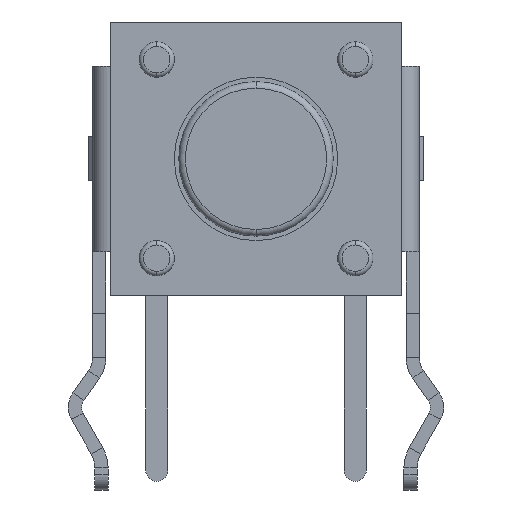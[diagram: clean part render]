
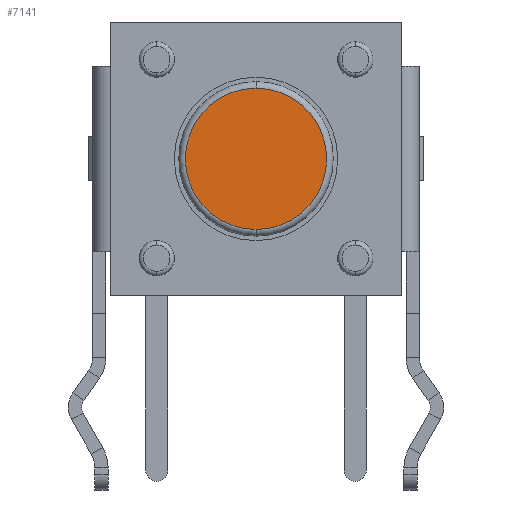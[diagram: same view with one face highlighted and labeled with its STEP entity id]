
A CAD part, front view. The second image highlights one B-rep face of the part: STEP entity #7141.
In plain terms, the highlighted planar face has unit normal (0, -1, 0).
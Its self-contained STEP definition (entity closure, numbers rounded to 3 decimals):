
#40 = EDGE_CURVE ( 'NONE', #3072, #11976, #4426, .T. ) ;
#1839 = CARTESIAN_POINT ( 'NONE',  ( 0., -3.15, 5.6 ) ) ;
#2458 = ORIENTED_EDGE ( 'NONE', *, *, #10839, .T. ) ;
#3072 = VERTEX_POINT ( 'NONE', #1839 ) ;
#4204 = DIRECTION ( 'NONE',  ( 0., 0., -1. ) ) ;
#4426 = CIRCLE ( 'NONE', #12032, 1.6 ) ;
#5379 = CARTESIAN_POINT ( 'NONE',  ( 0., -3.15, 0. ) ) ;
#6992 = ORIENTED_EDGE ( 'NONE', *, *, #40, .T. ) ;
#7141 = ADVANCED_FACE ( 'NONE', ( #18933 ), #10369, .T. ) ;
#9981 = DIRECTION ( 'NONE',  ( 0., -1., 0. ) ) ;
#10369 = PLANE ( 'NONE',  #21369 ) ;
#10610 = CARTESIAN_POINT ( 'NONE',  ( 0., -3.15, 2.4 ) ) ;
#10839 = EDGE_CURVE ( 'NONE', #11976, #3072, #14573, .T. ) ;
#11976 = VERTEX_POINT ( 'NONE', #10610 ) ;
#12032 = AXIS2_PLACEMENT_3D ( 'NONE', #21269, #19699, #4204 ) ;
#12287 = DIRECTION ( 'NONE',  ( 0., -1., 0. ) ) ;
#14573 = CIRCLE ( 'NONE', #15998, 1.6 ) ;
#15998 = AXIS2_PLACEMENT_3D ( 'NONE', #20350, #9981, #21930 ) ;
#17453 = DIRECTION ( 'NONE',  ( 0., 0., -1. ) ) ;
#18516 = EDGE_LOOP ( 'NONE', ( #2458, #6992 ) ) ;
#18933 = FACE_OUTER_BOUND ( 'NONE', #18516, .T. ) ;
#19699 = DIRECTION ( 'NONE',  ( 0., -1., 0. ) ) ;
#20350 = CARTESIAN_POINT ( 'NONE',  ( 0., -3.15, 4. ) ) ;
#21269 = CARTESIAN_POINT ( 'NONE',  ( 0., -3.15, 4. ) ) ;
#21369 = AXIS2_PLACEMENT_3D ( 'NONE', #5379, #12287, #17453 ) ;
#21930 = DIRECTION ( 'NONE',  ( 0., 0., -1. ) ) ;
